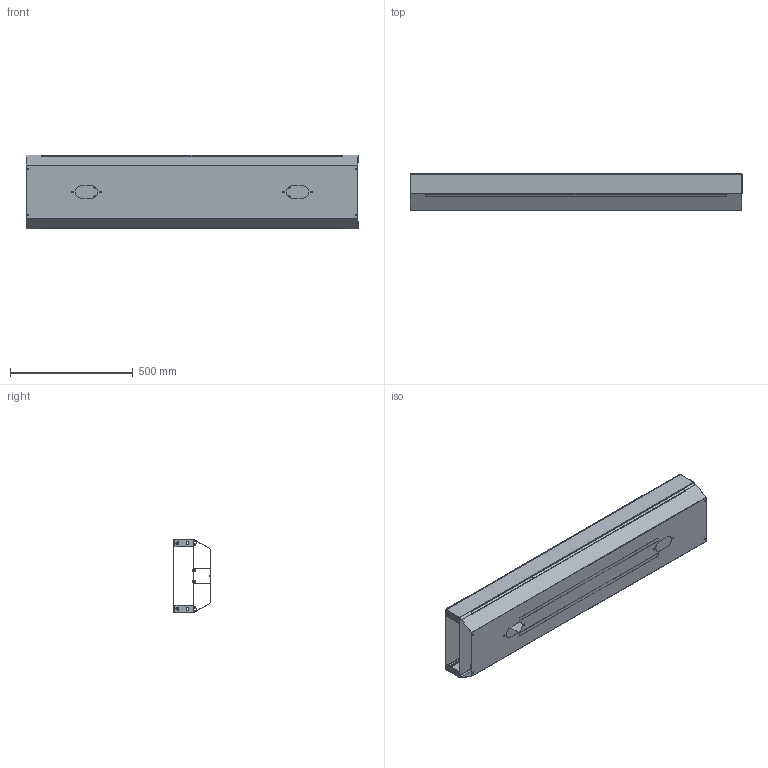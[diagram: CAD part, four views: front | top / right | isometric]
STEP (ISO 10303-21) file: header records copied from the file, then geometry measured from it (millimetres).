
FILE_DESCRIPTION((''),'2;1');
FILE_NAME('PHDM0042A_ASM','2019-07-03T',('Yi Zhou'),(''),'CREO PARAMETRIC BY PTC INC, 2015080','CREO PARAMETRIC BY PTC INC, 2015080','');
FILE_SCHEMA(('CONFIG_CONTROL_DESIGN'));
Length unit declared in the file: millimetre
Products named in the file (18): PHDM0042A-1-1; PHDM0042A-1-1_ASM; PHDM0042A-1-2; PHDM0042A-1-2_ASM; PHDM0042A-1-3; PHDM0042A-1-3_ASM; PHDM0042A-1_ASM; PHDM0042A-2; PHDM0042A-2_ASM; 1020069712; PHDM0042A-5; PHDM0042A-5_ASM; PHDM0042A-3-1; PHDM0042A-3_ASM; PHDM0042A-4-1; PHDM0042A-3-2; PHDM0042A-4_ASM; PHDM0042A_ASM
Assembly tree (39 placements, depth 4):
  PHDM0042A_ASM
    PHDM0042A-1_ASM
      PHDM0042A-1-1_ASM
        PHDM0042A-1-1
      PHDM0042A-1-2_ASM  x2
        PHDM0042A-1-2
      PHDM0042A-1-3_ASM  x2
        PHDM0042A-1-3
    PHDM0042A-2_ASM
      PHDM0042A-2
    1020069712  x16
    PHDM0042A-5_ASM  x2
      PHDM0042A-5
    PHDM0042A-3_ASM
      PHDM0042A-3-1
    PHDM0042A-4_ASM  x2
      PHDM0042A-4-1
      PHDM0042A-3-2
Bounding box: 1354 x 152.6 x 300 mm (x, y, z)
Volume: 1354130 mm3; surface area: 3879453.8 mm2
Topology: 35 solids, 43 shells, 2416 faces, 6262 edges, 3932 vertices
Faces by surface type: plane 1118, cylinder 938, bspline 240, torus 88, sphere 32
Entity records: 40053 total; most frequent: CARTESIAN_POINT 10848, DIRECTION 6030, ORIENTED_EDGE 5928, EDGE_CURVE 2972, VECTOR 2144, LINE 2144, AXIS2_PLACEMENT_3D 1943, VERTEX_POINT 1862
